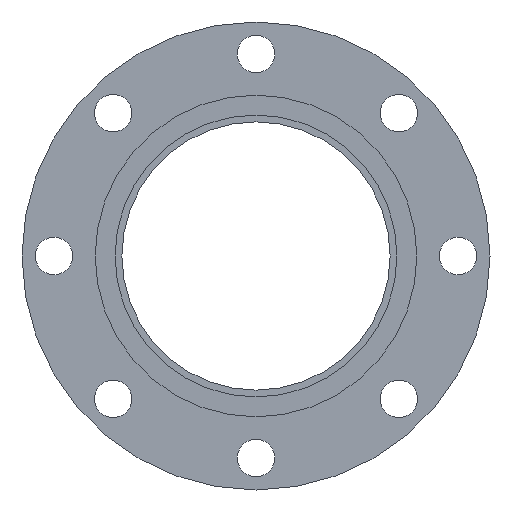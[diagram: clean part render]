
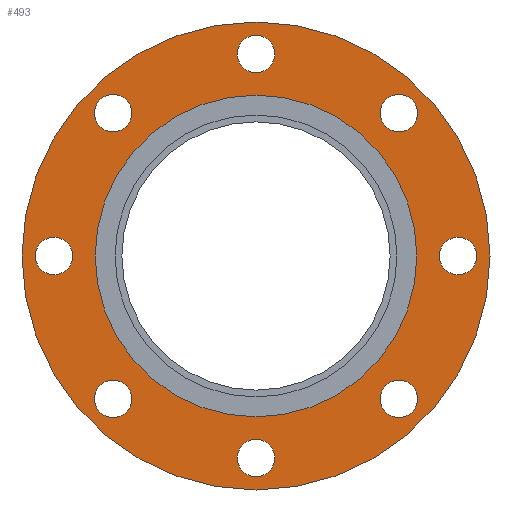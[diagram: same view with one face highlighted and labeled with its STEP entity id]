
A CAD part, left-side view. The second image highlights one B-rep face of the part: STEP entity #493.
In plain terms, the highlighted planar face has unit normal (-1, 0, 0).
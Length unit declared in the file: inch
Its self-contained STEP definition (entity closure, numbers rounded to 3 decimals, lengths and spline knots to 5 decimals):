
#49=FACE_BOUND('',#119,.T.);
#50=FACE_BOUND('',#120,.T.);
#51=FACE_BOUND('',#121,.T.);
#52=FACE_BOUND('',#122,.T.);
#53=FACE_BOUND('',#123,.T.);
#54=FACE_BOUND('',#124,.T.);
#55=FACE_BOUND('',#125,.T.);
#56=FACE_BOUND('',#126,.T.);
#57=FACE_BOUND('',#127,.T.);
#72=PLANE('',#571);
#92=FACE_OUTER_BOUND('',#118,.T.);
#118=EDGE_LOOP('',(#397,#398));
#119=EDGE_LOOP('',(#399));
#120=EDGE_LOOP('',(#400));
#121=EDGE_LOOP('',(#401));
#122=EDGE_LOOP('',(#402));
#123=EDGE_LOOP('',(#403));
#124=EDGE_LOOP('',(#404));
#125=EDGE_LOOP('',(#405));
#126=EDGE_LOOP('',(#406));
#127=EDGE_LOOP('',(#407,#408));
#173=CIRCLE('',#520,0.44);
#175=CIRCLE('',#523,0.44);
#177=CIRCLE('',#526,0.44);
#179=CIRCLE('',#529,0.44);
#181=CIRCLE('',#532,0.44);
#183=CIRCLE('',#535,0.44);
#185=CIRCLE('',#538,0.44);
#187=CIRCLE('',#541,0.44);
#206=CIRCLE('',#569,3.78);
#207=CIRCLE('',#570,3.78);
#208=CIRCLE('',#572,5.5);
#209=CIRCLE('',#573,5.5);
#217=VERTEX_POINT('',#776);
#219=VERTEX_POINT('',#782);
#221=VERTEX_POINT('',#788);
#223=VERTEX_POINT('',#794);
#225=VERTEX_POINT('',#800);
#227=VERTEX_POINT('',#806);
#229=VERTEX_POINT('',#812);
#231=VERTEX_POINT('',#818);
#250=VERTEX_POINT('',#870);
#251=VERTEX_POINT('',#871);
#252=VERTEX_POINT('',#876);
#253=VERTEX_POINT('',#877);
#262=EDGE_CURVE('',#217,#217,#173,.T.);
#265=EDGE_CURVE('',#219,#219,#175,.T.);
#268=EDGE_CURVE('',#221,#221,#177,.T.);
#271=EDGE_CURVE('',#223,#223,#179,.T.);
#274=EDGE_CURVE('',#225,#225,#181,.T.);
#277=EDGE_CURVE('',#227,#227,#183,.T.);
#280=EDGE_CURVE('',#229,#229,#185,.T.);
#283=EDGE_CURVE('',#231,#231,#187,.T.);
#306=EDGE_CURVE('',#250,#251,#206,.T.);
#307=EDGE_CURVE('',#251,#250,#207,.T.);
#309=EDGE_CURVE('',#252,#253,#208,.T.);
#310=EDGE_CURVE('',#253,#252,#209,.T.);
#397=ORIENTED_EDGE('',*,*,#309,.F.);
#398=ORIENTED_EDGE('',*,*,#310,.F.);
#399=ORIENTED_EDGE('',*,*,#262,.T.);
#400=ORIENTED_EDGE('',*,*,#265,.T.);
#401=ORIENTED_EDGE('',*,*,#268,.T.);
#402=ORIENTED_EDGE('',*,*,#271,.T.);
#403=ORIENTED_EDGE('',*,*,#274,.T.);
#404=ORIENTED_EDGE('',*,*,#277,.T.);
#405=ORIENTED_EDGE('',*,*,#280,.T.);
#406=ORIENTED_EDGE('',*,*,#283,.T.);
#407=ORIENTED_EDGE('',*,*,#306,.T.);
#408=ORIENTED_EDGE('',*,*,#307,.T.);
#493=ADVANCED_FACE('',(#92,#49,#50,#51,#52,#53,#54,#55,#56,#57),#72,.T.);
#520=AXIS2_PLACEMENT_3D('',#778,#604,#605);
#523=AXIS2_PLACEMENT_3D('',#784,#611,#612);
#526=AXIS2_PLACEMENT_3D('',#790,#618,#619);
#529=AXIS2_PLACEMENT_3D('',#796,#625,#626);
#532=AXIS2_PLACEMENT_3D('',#802,#632,#633);
#535=AXIS2_PLACEMENT_3D('',#808,#639,#640);
#538=AXIS2_PLACEMENT_3D('',#814,#646,#647);
#541=AXIS2_PLACEMENT_3D('',#820,#653,#654);
#569=AXIS2_PLACEMENT_3D('',#872,#713,#714);
#570=AXIS2_PLACEMENT_3D('',#873,#715,#716);
#571=AXIS2_PLACEMENT_3D('',#875,#718,#719);
#572=AXIS2_PLACEMENT_3D('',#878,#720,#721);
#573=AXIS2_PLACEMENT_3D('',#879,#722,#723);
#604=DIRECTION('center_axis',(1.,0.,0.));
#605=DIRECTION('ref_axis',(0.,0.707,0.707));
#611=DIRECTION('center_axis',(1.,0.,0.));
#612=DIRECTION('ref_axis',(0.,1.,0.));
#618=DIRECTION('center_axis',(1.,0.,0.));
#619=DIRECTION('ref_axis',(0.,0.707,-0.707));
#625=DIRECTION('center_axis',(1.,0.,0.));
#626=DIRECTION('ref_axis',(0.,0.,-1.));
#632=DIRECTION('center_axis',(1.,0.,0.));
#633=DIRECTION('ref_axis',(0.,-0.707,-0.707));
#639=DIRECTION('center_axis',(1.,0.,0.));
#640=DIRECTION('ref_axis',(0.,-1.,0.));
#646=DIRECTION('center_axis',(1.,0.,0.));
#647=DIRECTION('ref_axis',(0.,-0.707,0.707));
#653=DIRECTION('center_axis',(1.,0.,0.));
#654=DIRECTION('ref_axis',(0.,0.,1.));
#713=DIRECTION('center_axis',(1.,0.,0.));
#714=DIRECTION('ref_axis',(0.,0.,-1.));
#715=DIRECTION('center_axis',(1.,0.,0.));
#716=DIRECTION('ref_axis',(0.,0.,-1.));
#718=DIRECTION('center_axis',(-1.,0.,0.));
#719=DIRECTION('ref_axis',(0.,0.,1.));
#720=DIRECTION('center_axis',(1.,0.,0.));
#721=DIRECTION('ref_axis',(0.,0.,-1.));
#722=DIRECTION('center_axis',(1.,0.,0.));
#723=DIRECTION('ref_axis',(0.,0.,-1.));
#776=CARTESIAN_POINT('',(-1.0025,3.04763,-3.66988));
#778=CARTESIAN_POINT('Origin',(-1.0025,3.35876,-3.35876));
#782=CARTESIAN_POINT('',(-1.0025,-0.44,-4.75));
#784=CARTESIAN_POINT('Origin',(-1.0025,0.,-4.75));
#788=CARTESIAN_POINT('',(-1.0025,-3.66988,-3.04763));
#790=CARTESIAN_POINT('Origin',(-1.0025,-3.35876,-3.35876));
#794=CARTESIAN_POINT('',(-1.0025,-4.75,0.44));
#796=CARTESIAN_POINT('Origin',(-1.0025,-4.75,0.));
#800=CARTESIAN_POINT('',(-1.0025,-3.04763,3.66988));
#802=CARTESIAN_POINT('Origin',(-1.0025,-3.35876,3.35876));
#806=CARTESIAN_POINT('',(-1.0025,0.44,4.75));
#808=CARTESIAN_POINT('Origin',(-1.0025,0.,4.75));
#812=CARTESIAN_POINT('',(-1.0025,3.66988,3.04763));
#814=CARTESIAN_POINT('Origin',(-1.0025,3.35876,3.35876));
#818=CARTESIAN_POINT('',(-1.0025,4.75,-0.44));
#820=CARTESIAN_POINT('Origin',(-1.0025,4.75,0.));
#870=CARTESIAN_POINT('',(-1.0025,3.78,0.));
#871=CARTESIAN_POINT('',(-1.0025,-3.78,0.));
#872=CARTESIAN_POINT('Origin',(-1.0025,0.,0.));
#873=CARTESIAN_POINT('Origin',(-1.0025,0.,0.));
#875=CARTESIAN_POINT('Origin',(-1.0025,5.5,0.));
#876=CARTESIAN_POINT('',(-1.0025,5.5,0.));
#877=CARTESIAN_POINT('',(-1.0025,-5.5,0.));
#878=CARTESIAN_POINT('Origin',(-1.0025,0.,0.));
#879=CARTESIAN_POINT('Origin',(-1.0025,0.,0.));
